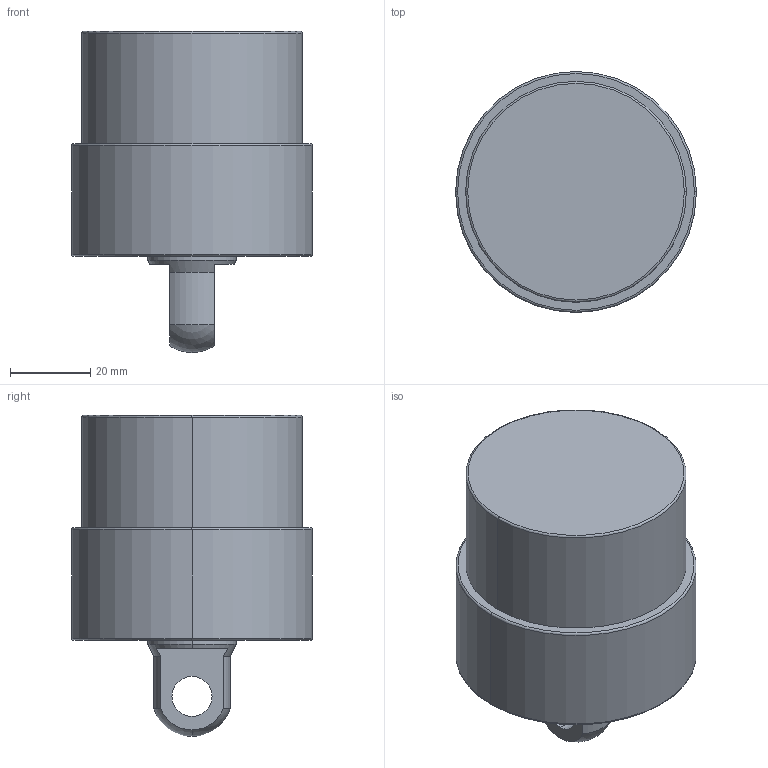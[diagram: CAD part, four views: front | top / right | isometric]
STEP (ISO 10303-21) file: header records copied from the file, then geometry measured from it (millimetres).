
FILE_DESCRIPTION (( 'STEP AP203' ), '1' );
FILE_NAME ('CLLU-055GP-015.STEP', '2020-01-06T06:51:16', ( '' ), ( '' ), 'SwSTEP 2.0', 'SolidWorks 2015', '' );
FILE_SCHEMA (( 'CONFIG_CONTROL_DESIGN' ));
Length unit declared in the file: millimetre
Products named in the file (1): CLLU-055GP-015
Bounding box: 60 x 60 x 80 mm (x, y, z)
Volume: 147920.6 mm3; surface area: 18091.8 mm2
Topology: 1 solids, 1 shells, 57 faces, 130 edges, 75 vertices
Faces by surface type: cylinder 22, cone 18, plane 9, torus 6, sphere 2
Entity records: 1643 total; most frequent: DIRECTION 308, CARTESIAN_POINT 267, ORIENTED_EDGE 244, AXIS2_PLACEMENT_3D 132, EDGE_CURVE 122, VERTEX_POINT 75, CIRCLE 74, EDGE_LOOP 67
